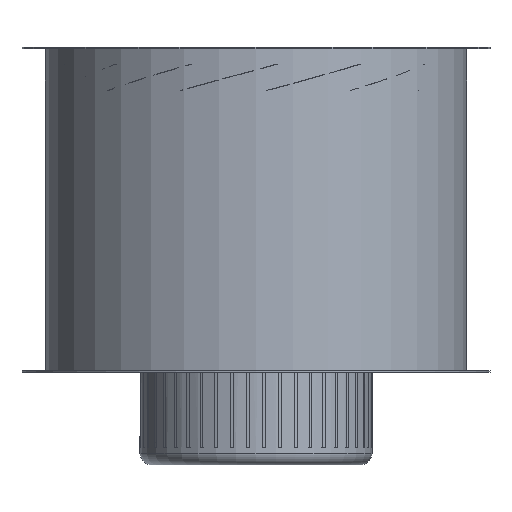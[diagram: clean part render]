
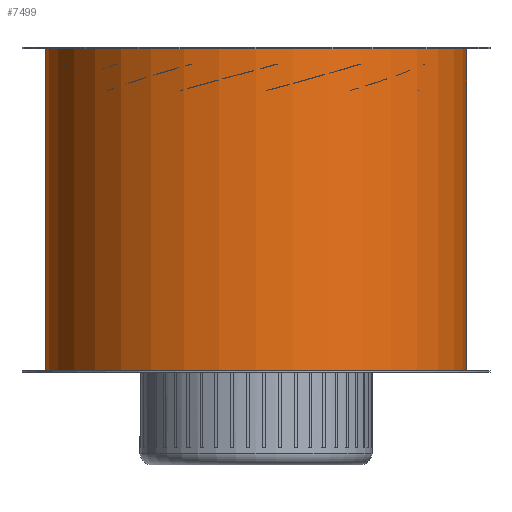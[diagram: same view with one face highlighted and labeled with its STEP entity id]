
A CAD part, front view. The second image highlights one B-rep face of the part: STEP entity #7499.
In plain terms, the highlighted cylindrical face has radius 359.5 mm (diameter 719 mm), a full revolution.
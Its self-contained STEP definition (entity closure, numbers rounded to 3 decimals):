
#718=FACE_OUTER_BOUND('',#1374,.T.);
#836=FACE_BOUND('',#1375,.T.);
#837=FACE_BOUND('',#1376,.T.);
#1374=EDGE_LOOP('',(#6825,#6826,#6827,#6828));
#1375=EDGE_LOOP('',(#6829,#6830));
#1376=EDGE_LOOP('',(#6831,#6832,#6833,#6834));
#1620=CIRCLE('',#8006,359.5);
#1621=CIRCLE('',#8008,359.5);
#1749=CIRCLE('',#8232,359.5);
#1752=CIRCLE('',#8237,359.5);
#1796=B_SPLINE_CURVE_WITH_KNOTS('',3,(#11865,#11866,#11867,#11868,#11869,
#11870,#11871,#11872,#11873,#11874),.UNSPECIFIED.,.F.,.F.,(4,2,2,2,4),(0.,
0.28,0.56,0.9,1.24),
 .UNSPECIFIED.);
#1797=B_SPLINE_CURVE_WITH_KNOTS('',3,(#11875,#11876,#11877,#11878,#11879,
#11880,#11881,#11882,#11883,#11884,#11885,#11886,#11887,#11888,#11889,#11890,
#11891,#11892,#11893,#11894,#11895,#11896,#11897,#11898,#11899,#11900),
 .UNSPECIFIED.,.F.,.F.,(4,2,2,2,2,2,2,2,2,2,2,2,4),(1.24,1.584,
1.929,2.209,2.49,2.77,3.051,
3.395,3.74,4.08,4.42,4.7,
4.98),.UNSPECIFIED.);
#2336=LINE('',#11965,#2873);
#2344=LINE('',#11980,#2881);
#2456=LINE('',#14195,#2993);
#2873=VECTOR('',#9623,10.);
#2881=VECTOR('',#9635,10.);
#2993=VECTOR('',#10217,359.5);
#3460=VERTEX_POINT('',#11863);
#3461=VERTEX_POINT('',#11864);
#3469=VERTEX_POINT('',#11961);
#3471=VERTEX_POINT('',#11964);
#3475=VERTEX_POINT('',#11976);
#3476=VERTEX_POINT('',#11978);
#3663=VERTEX_POINT('',#14182);
#3666=VERTEX_POINT('',#14191);
#4339=EDGE_CURVE('',#3460,#3461,#1796,.T.);
#4340=EDGE_CURVE('',#3461,#3460,#1797,.T.);
#4355=EDGE_CURVE('',#3471,#3469,#2336,.T.);
#4363=EDGE_CURVE('',#3475,#3476,#2344,.T.);
#4364=EDGE_CURVE('',#3469,#3475,#1620,.T.);
#4365=EDGE_CURVE('',#3476,#3471,#1621,.T.);
#4723=EDGE_CURVE('',#3663,#3663,#1749,.T.);
#4727=EDGE_CURVE('',#3666,#3666,#1752,.T.);
#4728=EDGE_CURVE('',#3666,#3663,#2456,.T.);
#6825=ORIENTED_EDGE('',*,*,#4727,.T.);
#6826=ORIENTED_EDGE('',*,*,#4728,.T.);
#6827=ORIENTED_EDGE('',*,*,#4723,.T.);
#6828=ORIENTED_EDGE('',*,*,#4728,.F.);
#6829=ORIENTED_EDGE('',*,*,#4339,.T.);
#6830=ORIENTED_EDGE('',*,*,#4340,.T.);
#6831=ORIENTED_EDGE('',*,*,#4363,.T.);
#6832=ORIENTED_EDGE('',*,*,#4365,.T.);
#6833=ORIENTED_EDGE('',*,*,#4355,.T.);
#6834=ORIENTED_EDGE('',*,*,#4364,.T.);
#6958=CYLINDRICAL_SURFACE('',#8239,359.5);
#7499=ADVANCED_FACE('',(#718,#836,#837),#6958,.T.);
#8006=AXIS2_PLACEMENT_3D('',#11982,#9638,#9639);
#8008=AXIS2_PLACEMENT_3D('',#11984,#9642,#9643);
#8232=AXIS2_PLACEMENT_3D('',#14183,#10200,#10201);
#8237=AXIS2_PLACEMENT_3D('',#14192,#10211,#10212);
#8239=AXIS2_PLACEMENT_3D('',#14194,#10215,#10216);
#9623=DIRECTION('',(0.,0.,-1.));
#9635=DIRECTION('',(0.,0.,1.));
#9638=DIRECTION('center_axis',(0.,0.,-1.));
#9639=DIRECTION('ref_axis',(-1.,0.,0.));
#9642=DIRECTION('center_axis',(0.,0.,1.));
#9643=DIRECTION('ref_axis',(-1.,0.,0.));
#10200=DIRECTION('center_axis',(0.,0.,1.));
#10201=DIRECTION('ref_axis',(-1.,0.,0.));
#10211=DIRECTION('center_axis',(0.,0.,-1.));
#10212=DIRECTION('ref_axis',(-1.,0.,0.));
#10215=DIRECTION('center_axis',(0.,0.,1.));
#10216=DIRECTION('ref_axis',(-1.,0.,0.));
#10217=DIRECTION('',(0.,0.,-1.));
#11863=CARTESIAN_POINT('',(-190.556,304.842,-173.));
#11864=CARTESIAN_POINT('',(-198.056,300.024,-165.5));
#11865=CARTESIAN_POINT('Ctrl Pts',(-190.556,304.842,-173.));
#11866=CARTESIAN_POINT('Ctrl Pts',(-190.556,304.842,-172.067));
#11867=CARTESIAN_POINT('Ctrl Pts',(-190.741,304.727,-171.084));
#11868=CARTESIAN_POINT('Ctrl Pts',(-191.46,304.276,-169.303));
#11869=CARTESIAN_POINT('Ctrl Pts',(-191.991,303.941,-168.505));
#11870=CARTESIAN_POINT('Ctrl Pts',(-193.286,303.12,-167.119));
#11871=CARTESIAN_POINT('Ctrl Pts',(-194.176,302.551,-166.498));
#11872=CARTESIAN_POINT('Ctrl Pts',(-196.088,301.316,-165.689));
#11873=CARTESIAN_POINT('Ctrl Pts',(-197.11,300.648,-165.5));
#11874=CARTESIAN_POINT('Ctrl Pts',(-198.056,300.024,-165.5));
#11875=CARTESIAN_POINT('Ctrl Pts',(-198.056,300.024,-165.5));
#11876=CARTESIAN_POINT('Ctrl Pts',(-199.014,299.391,-165.5));
#11877=CARTESIAN_POINT('Ctrl Pts',(-200.042,298.705,-165.693));
#11878=CARTESIAN_POINT('Ctrl Pts',(-201.957,297.414,-166.511));
#11879=CARTESIAN_POINT('Ctrl Pts',(-202.844,296.809,-167.135));
#11880=CARTESIAN_POINT('Ctrl Pts',(-204.128,295.926,-168.518));
#11881=CARTESIAN_POINT('Ctrl Pts',(-204.655,295.562,-169.31));
#11882=CARTESIAN_POINT('Ctrl Pts',(-205.369,295.066,-171.083));
#11883=CARTESIAN_POINT('Ctrl Pts',(-205.556,294.936,-172.065));
#11884=CARTESIAN_POINT('Ctrl Pts',(-205.556,294.936,-173.935));
#11885=CARTESIAN_POINT('Ctrl Pts',(-205.369,295.066,-174.917));
#11886=CARTESIAN_POINT('Ctrl Pts',(-204.655,295.562,-176.69));
#11887=CARTESIAN_POINT('Ctrl Pts',(-204.128,295.926,-177.482));
#11888=CARTESIAN_POINT('Ctrl Pts',(-202.844,296.809,-178.865));
#11889=CARTESIAN_POINT('Ctrl Pts',(-201.957,297.414,-179.489));
#11890=CARTESIAN_POINT('Ctrl Pts',(-200.042,298.705,-180.307));
#11891=CARTESIAN_POINT('Ctrl Pts',(-199.014,299.391,-180.5));
#11892=CARTESIAN_POINT('Ctrl Pts',(-197.11,300.648,-180.5));
#11893=CARTESIAN_POINT('Ctrl Pts',(-196.088,301.316,-180.311));
#11894=CARTESIAN_POINT('Ctrl Pts',(-194.176,302.551,-179.502));
#11895=CARTESIAN_POINT('Ctrl Pts',(-193.286,303.12,-178.881));
#11896=CARTESIAN_POINT('Ctrl Pts',(-191.991,303.941,-177.495));
#11897=CARTESIAN_POINT('Ctrl Pts',(-191.46,304.276,-176.697));
#11898=CARTESIAN_POINT('Ctrl Pts',(-190.741,304.727,-174.916));
#11899=CARTESIAN_POINT('Ctrl Pts',(-190.556,304.842,-173.933));
#11900=CARTESIAN_POINT('Ctrl Pts',(-190.556,304.842,-173.));
#11961=CARTESIAN_POINT('',(-132.037,334.375,-265.5));
#11964=CARTESIAN_POINT('',(-132.037,334.375,-80.5));
#11965=CARTESIAN_POINT('',(-132.037,334.375,0.));
#11976=CARTESIAN_POINT('',(132.037,334.375,-265.5));
#11978=CARTESIAN_POINT('',(132.037,334.375,-80.5));
#11980=CARTESIAN_POINT('',(132.037,334.375,0.));
#11982=CARTESIAN_POINT('Origin',(0.,0.,-265.5));
#11984=CARTESIAN_POINT('Origin',(0.,0.,-80.5));
#14182=CARTESIAN_POINT('',(359.5,0.,-274.5));
#14183=CARTESIAN_POINT('Origin',(0.,0.,-274.5));
#14191=CARTESIAN_POINT('',(359.5,0.,274.5));
#14192=CARTESIAN_POINT('Origin',(0.,0.,274.5));
#14194=CARTESIAN_POINT('Origin',(0.,0.,0.));
#14195=CARTESIAN_POINT('',(359.5,0.,0.));
